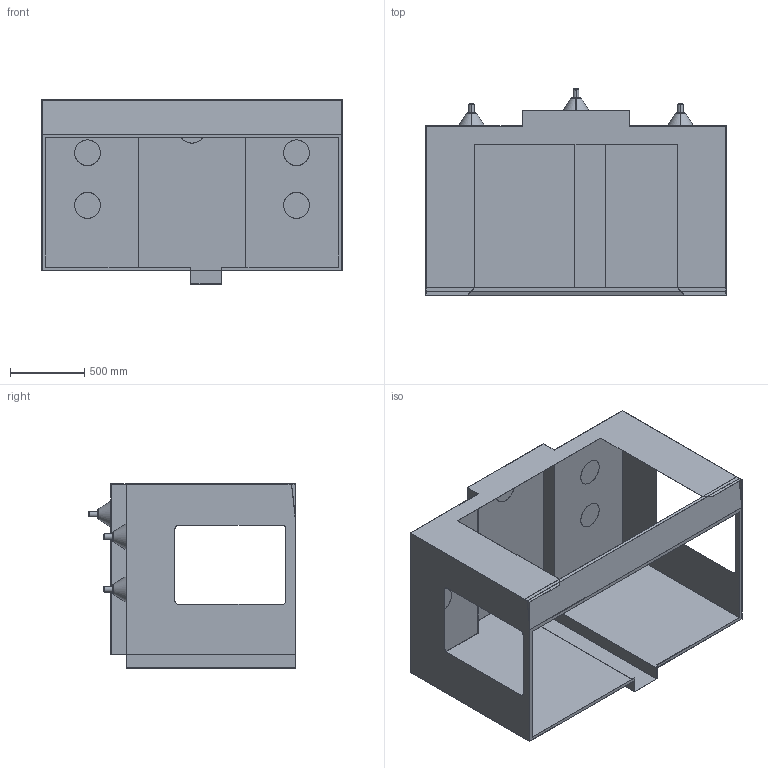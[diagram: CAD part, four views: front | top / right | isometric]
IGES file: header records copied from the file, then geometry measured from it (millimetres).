
Start section: SolidWorks IGES file using analytic representation for surfaces
Global section: file name: R:\Drawings\Files saved as other types\Solid_Models\MODELS FOR PUBLIC\34427 PCNC-1100 ENCLOSURE.IGS; native system: SolidWorks 2012; preprocessor: SolidWorks 2012; author: rtooley; date: 140618.100113; units: millimetre
Bounding box: 2027.75 x 1396.5 x 1243.88 mm (x, y, z)
Surface area: 17460275.2 mm2 (no closed solid volume)
Topology: 0 solids, 0 shells, 115 faces, 1896 edges, 1896 vertices
Faces by surface type: bspline 87, revolution 28
